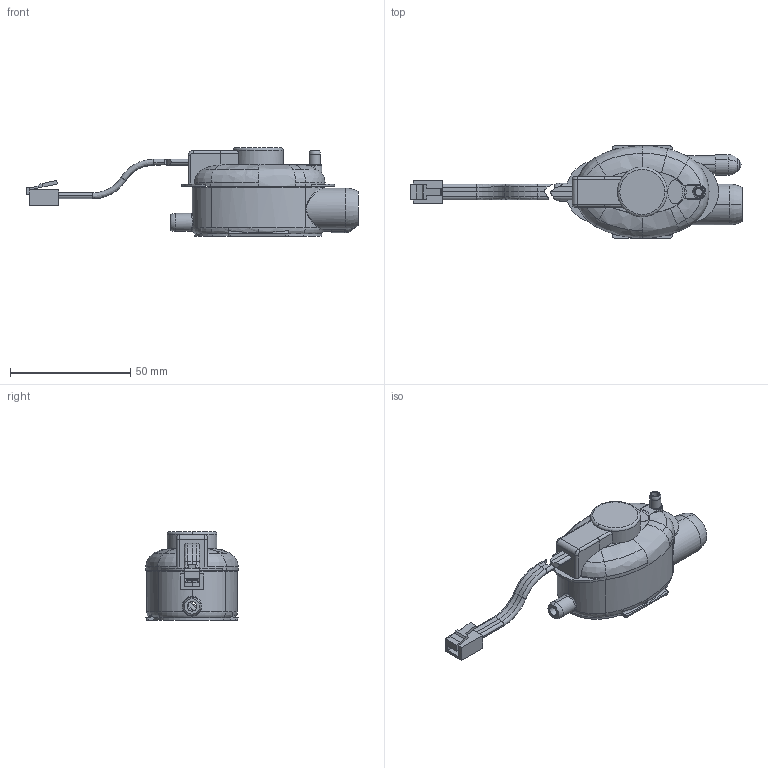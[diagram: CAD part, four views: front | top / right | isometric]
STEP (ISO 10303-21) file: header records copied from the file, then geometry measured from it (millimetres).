
FILE_DESCRIPTION (( 'STEP AP214' ), '1' );
FILE_NAME ('Sauermann_SI2958.STEP', '2021-04-08T15:05:35', ( '' ), ( '' ), 'SwSTEP 2.0', 'SolidWorks 2020', '' );
FILE_SCHEMA (( 'AUTOMOTIVE_DESIGN' ));
Length unit declared in the file: millimetre
Products named in the file (1): Sauermann_SI2958
Bounding box: 138.18 x 38.4 x 36.85 mm (x, y, z)
Surface area: 13557.1 mm2 (no closed solid volume)
Topology: 0 solids, 13 shells, 248 faces, 701 edges, 462 vertices
Faces by surface type: plane 82, cylinder 77, bspline 57, torus 18, cone 8, sphere 6
Entity records: 15934 total; most frequent: CARTESIAN_POINT 7299, ORIENTED_EDGE 1246, DIRECTION 1116, EDGE_CURVE 696, VERTEX_POINT 461, AXIS2_PLACEMENT_3D 425, LINE 266, VECTOR 266
